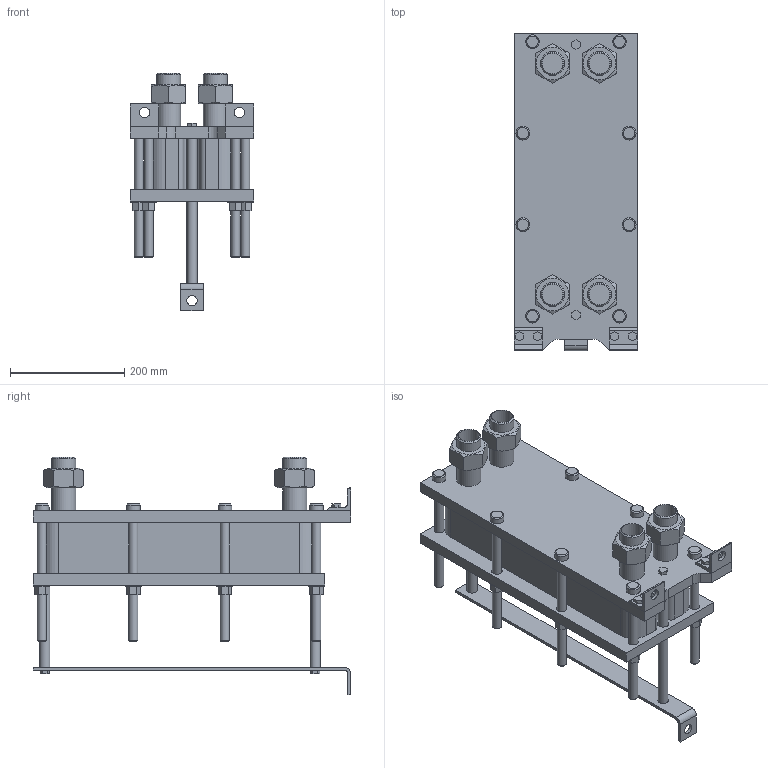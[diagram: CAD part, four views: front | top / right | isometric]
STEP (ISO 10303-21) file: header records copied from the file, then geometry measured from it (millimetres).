
FILE_DESCRIPTION(/* description */ (''),/* implementation_level */ '2;1');
FILE_NAME(/* name */ 'C:\Users\zhuro\Desktop\ENCO\TO\ЭН-004\ЭН-0,5-004-29-1.stp',/* time_stamp */ '2022-06-06T10:45:36+03:00',/* author */ ('zhuro'),/* organization */ (''),/* preprocessor_version */ 'ST-DEVELOPER v18.1',/* originating_system */ 'Autodesk Inventor 2022',/* authorisation */ '');
FILE_SCHEMA (('AUTOMOTIVE_DESIGN { 1 0 10303 214 3 1 1 }'));
Length unit declared in the file: millimetre
Products named in the file (1): ЭН-0,5-004-29-1
Bounding box: 216 x 555 x 416.2 mm (x, y, z)
Volume: 12247431.3 mm3; surface area: 1153735.5 mm2
Topology: 40 solids, 40 shells, 403 faces, 865 edges, 574 vertices
Faces by surface type: plane 272, cylinder 103, cone 28
Full cylindrical faces by diameter (mm): 10 x4, 16 x16, 18 x29, 20 x2, 24 x8, 28 x8, 36.3 x5, 42.3 x9
Entity records: 11137 total; most frequent: CARTESIAN_POINT 1939, DIRECTION 1879, ORIENTED_EDGE 1730, EDGE_CURVE 865, AXIS2_PLACEMENT_3D 658, VERTEX_POINT 574, LINE 563, VECTOR 563
